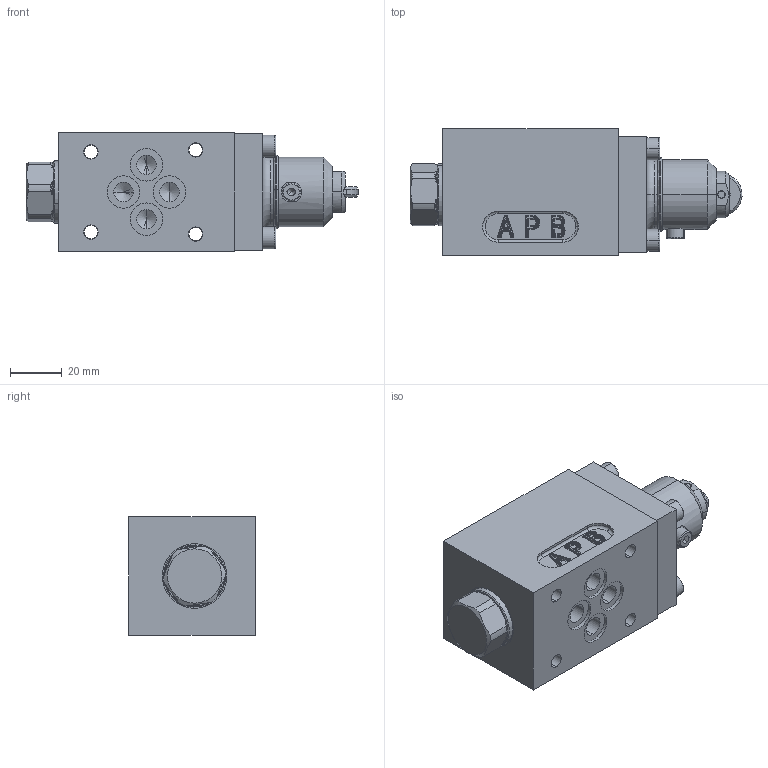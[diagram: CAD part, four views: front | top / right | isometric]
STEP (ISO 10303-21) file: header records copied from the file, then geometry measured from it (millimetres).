
FILE_DESCRIPTION (( 'STEP AP214' ), '1' );
FILE_NAME ('WDTFA06-4_2-Bside.STEP', '2018-06-13T05:16:43', ( '' ), ( '' ), 'SwSTEP 2.0', 'SolidWorks 2016', '' );
FILE_SCHEMA (( 'AUTOMOTIVE_DESIGN' ));
Length unit declared in the file: millimetre
Products named in the file (2): WDTFA06-4_2-Bside
Bounding box: 128.37 x 49 x 46 mm (x, y, z)
Volume: 188405.3 mm3; surface area: 33329.4 mm2
Topology: 4 solids, 10 shells, 757 faces, 1749 edges, 998 vertices
Faces by surface type: cylinder 274, plane 190, torus 101, cone 73, bspline 62, sphere 57
Entity records: 32732 total; most frequent: CARTESIAN_POINT 7473, DIRECTION 3776, ORIENTED_EDGE 3370, EDGE_CURVE 1685, AXIS2_PLACEMENT_3D 1565, VERTEX_POINT 997, CIRCLE 868, EDGE_LOOP 834
